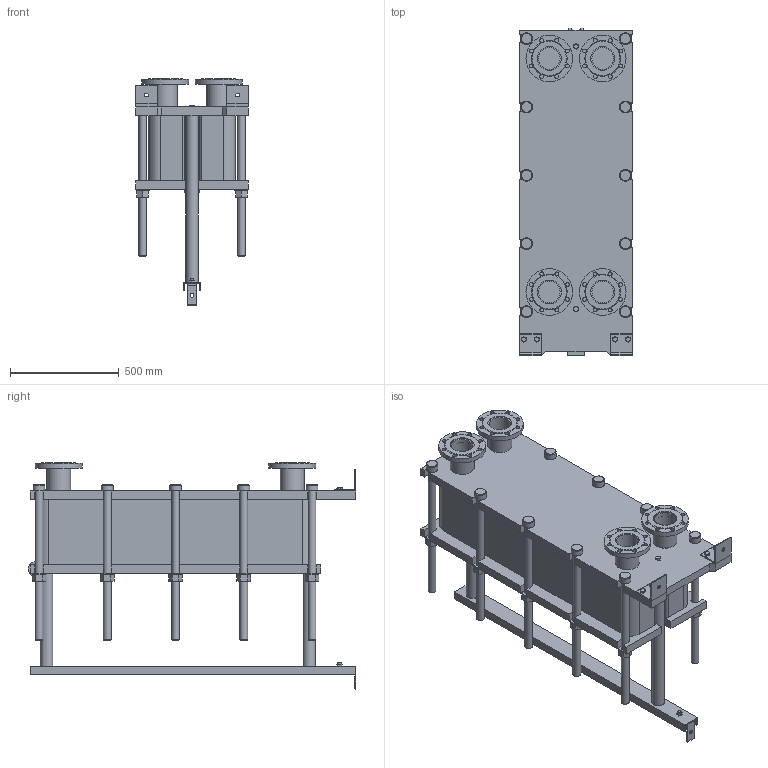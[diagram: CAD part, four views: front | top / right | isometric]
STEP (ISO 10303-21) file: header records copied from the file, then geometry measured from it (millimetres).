
FILE_DESCRIPTION(/* description */ (''),/* implementation_level */ '2;1');
FILE_NAME(/* name */ 'C:\Users\zhuro\Desktop\ENCO\TO\ЭН-04\ЭН-0,5-04-87-1.stp',/* time_stamp */ '2022-06-06T10:52:31+03:00',/* author */ ('zhuro'),/* organization */ (''),/* preprocessor_version */ 'ST-DEVELOPER v18.1',/* originating_system */ 'Autodesk Inventor 2022',/* authorisation */ '');
FILE_SCHEMA (('AUTOMOTIVE_DESIGN { 1 0 10303 214 3 1 1 }'));
Length unit declared in the file: millimetre
Products named in the file (1): ЭН-0,5-04-87-1
Bounding box: 520 x 1510 x 1043.5 mm (x, y, z)
Volume: 220507821.9 mm3; surface area: 8069390.7 mm2
Topology: 45 solids, 45 shells, 668 faces, 1611 edges, 1048 vertices
Faces by surface type: plane 457, cylinder 166, cone 39, torus 6
Full cylindrical faces by diameter (mm): 8 x4, 10 x2, 16 x8, 18 x35, 36 x25, 40 x2, 42 x1, 45 x4, 54 x10, 57 x2, 60 x10, 68 x2, 100 x4, 110 x8, 215 x4
Entity records: 23607 total; most frequent: CARTESIAN_POINT 7348, DIRECTION 3371, ORIENTED_EDGE 3142, EDGE_CURVE 1571, AXIS2_PLACEMENT_3D 1199, VERTEX_POINT 1044, LINE 973, VECTOR 973
